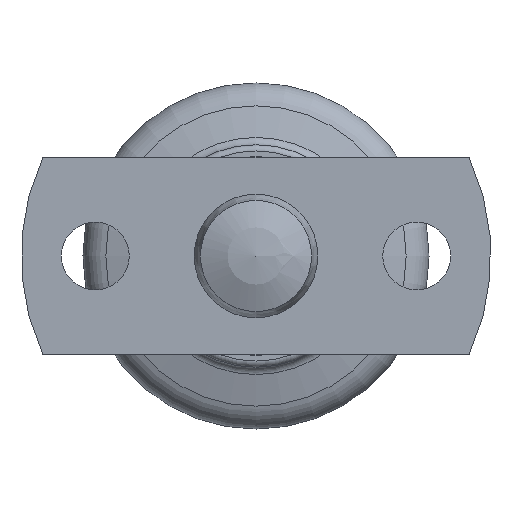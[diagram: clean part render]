
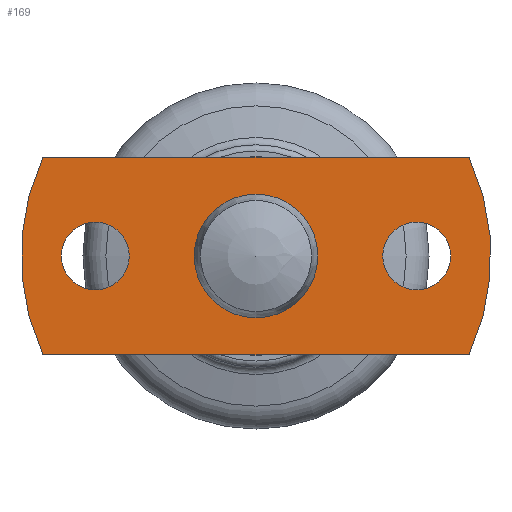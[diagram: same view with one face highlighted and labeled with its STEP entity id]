
A CAD part, front view. The second image highlights one B-rep face of the part: STEP entity #169.
In plain terms, the highlighted planar face has unit normal (0, -1, 0).
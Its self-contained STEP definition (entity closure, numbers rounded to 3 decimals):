
#169 = ADVANCED_FACE( '', ( #211, #212, #213, #214 ), #215, .F. );
#211 = FACE_BOUND( '', #330, .T. );
#212 = FACE_BOUND( '', #331, .T. );
#213 = FACE_BOUND( '', #332, .T. );
#214 = FACE_OUTER_BOUND( '', #333, .T. );
#215 = PLANE( '', #334 );
#330 = EDGE_LOOP( '', ( #448 ) );
#331 = EDGE_LOOP( '', ( #449 ) );
#332 = EDGE_LOOP( '', ( #450 ) );
#333 = EDGE_LOOP( '', ( #451, #452, #453, #454 ) );
#334 = AXIS2_PLACEMENT_3D( '', #455, #456, #457 );
#448 = ORIENTED_EDGE( '', *, *, #670, .F. );
#449 = ORIENTED_EDGE( '', *, *, #671, .T. );
#450 = ORIENTED_EDGE( '', *, *, #672, .F. );
#451 = ORIENTED_EDGE( '', *, *, #673, .F. );
#452 = ORIENTED_EDGE( '', *, *, #674, .F. );
#453 = ORIENTED_EDGE( '', *, *, #675, .F. );
#454 = ORIENTED_EDGE( '', *, *, #676, .F. );
#455 = CARTESIAN_POINT( '', ( 0., 0., 0. ) );
#456 = DIRECTION( '', ( 0., 1., 0. ) );
#457 = DIRECTION( '', ( 0., 0., 1. ) );
#670 = EDGE_CURVE( '', #722, #722, #723, .T. );
#671 = EDGE_CURVE( '', #724, #724, #725, .T. );
#672 = EDGE_CURVE( '', #726, #726, #727, .T. );
#673 = EDGE_CURVE( '', #728, #729, #730, .T. );
#674 = EDGE_CURVE( '', #731, #728, #732, .T. );
#675 = EDGE_CURVE( '', #733, #731, #734, .T. );
#676 = EDGE_CURVE( '', #729, #733, #735, .T. );
#722 = VERTEX_POINT( '', #816 );
#723 = CIRCLE( '', #817, 5. );
#724 = VERTEX_POINT( '', #818 );
#725 = CIRCLE( '', #819, 2.75 );
#726 = VERTEX_POINT( '', #820 );
#727 = CIRCLE( '', #821, 2.75 );
#728 = VERTEX_POINT( '', #822 );
#729 = VERTEX_POINT( '', #823 );
#730 = LINE( '', #824, #825 );
#731 = VERTEX_POINT( '', #826 );
#732 = CIRCLE( '', #827, 19. );
#733 = VERTEX_POINT( '', #828 );
#734 = LINE( '', #829, #830 );
#735 = CIRCLE( '', #831, 19. );
#816 = CARTESIAN_POINT( '', ( 0., 0., -5. ) );
#817 = AXIS2_PLACEMENT_3D( '', #920, #921, #922 );
#818 = CARTESIAN_POINT( '', ( -13., 0., 2.75 ) );
#819 = AXIS2_PLACEMENT_3D( '', #923, #924, #925 );
#820 = CARTESIAN_POINT( '', ( 13., 0., -2.75 ) );
#821 = AXIS2_PLACEMENT_3D( '', #926, #927, #928 );
#822 = CARTESIAN_POINT( '', ( 17.234, 0., -8. ) );
#823 = CARTESIAN_POINT( '', ( -17.234, 0., -8. ) );
#824 = CARTESIAN_POINT( '', ( 17.234, 0., -8. ) );
#825 = VECTOR( '', #929, 1000. );
#826 = CARTESIAN_POINT( '', ( 17.234, 0., 8. ) );
#827 = AXIS2_PLACEMENT_3D( '', #930, #931, #932 );
#828 = CARTESIAN_POINT( '', ( -17.234, 0., 8. ) );
#829 = CARTESIAN_POINT( '', ( -17.234, 0., 8. ) );
#830 = VECTOR( '', #933, 1000. );
#831 = AXIS2_PLACEMENT_3D( '', #934, #935, #936 );
#920 = CARTESIAN_POINT( '', ( 0., 0., 0. ) );
#921 = DIRECTION( '', ( 0., -1., 0. ) );
#922 = DIRECTION( '', ( 0., 0., -1. ) );
#923 = CARTESIAN_POINT( '', ( -13., 0., 0. ) );
#924 = DIRECTION( '', ( 0., 1., 0. ) );
#925 = DIRECTION( '', ( 0., 0., 1. ) );
#926 = CARTESIAN_POINT( '', ( 13., 0., 0. ) );
#927 = DIRECTION( '', ( 0., -1., 0. ) );
#928 = DIRECTION( '', ( 0., 0., -1. ) );
#929 = DIRECTION( '', ( -1., 0., 0. ) );
#930 = CARTESIAN_POINT( '', ( 0., 0., 0. ) );
#931 = DIRECTION( '', ( 0., 1., 0. ) );
#932 = DIRECTION( '', ( 1., 0., 0. ) );
#933 = DIRECTION( '', ( 1., 0., 0. ) );
#934 = CARTESIAN_POINT( '', ( 0., 0., 0. ) );
#935 = DIRECTION( '', ( 0., 1., 0. ) );
#936 = DIRECTION( '', ( 1., 0., 0. ) );
